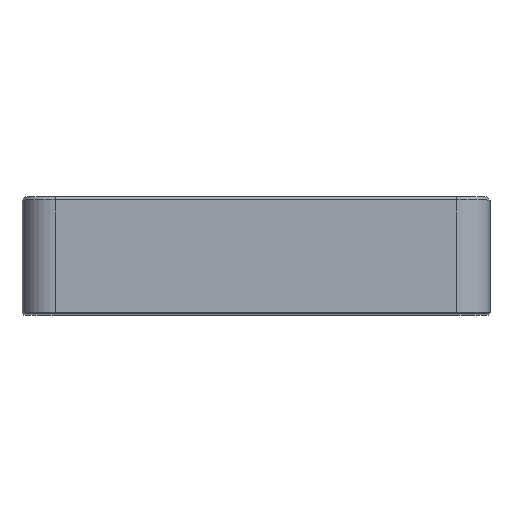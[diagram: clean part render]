
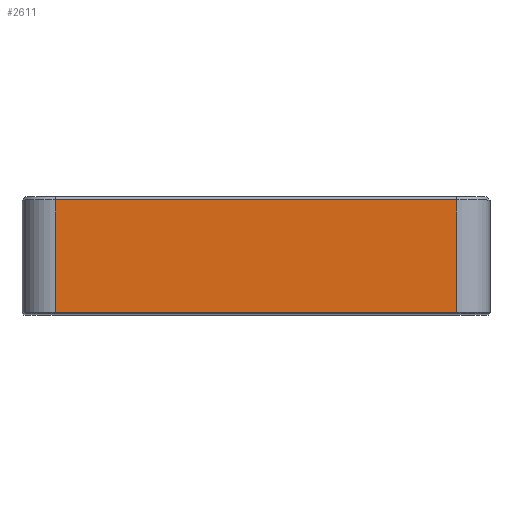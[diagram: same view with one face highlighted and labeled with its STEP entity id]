
A CAD part, top view. The second image highlights one B-rep face of the part: STEP entity #2611.
In plain terms, the highlighted planar face has unit normal (0, 0, 1).
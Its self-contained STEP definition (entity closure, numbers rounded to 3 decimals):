
#323=FACE_OUTER_BOUND('',#490,.T.);
#490=EDGE_LOOP('',(#2000,#2001,#2002,#2003));
#807=LINE('',#4218,#1045);
#808=LINE('',#4222,#1046);
#809=LINE('',#4224,#1047);
#810=LINE('',#4225,#1048);
#1045=VECTOR('',#3322,10.);
#1046=VECTOR('',#3327,10.);
#1047=VECTOR('',#3328,10.);
#1048=VECTOR('',#3329,10.);
#1307=VERTEX_POINT('',#4215);
#1308=VERTEX_POINT('',#4217);
#1309=VERTEX_POINT('',#4221);
#1310=VERTEX_POINT('',#4223);
#1565=EDGE_CURVE('',#1307,#1308,#807,.T.);
#1567=EDGE_CURVE('',#1309,#1307,#808,.T.);
#1568=EDGE_CURVE('',#1309,#1310,#809,.T.);
#1569=EDGE_CURVE('',#1308,#1310,#810,.T.);
#2000=ORIENTED_EDGE('',*,*,#1567,.F.);
#2001=ORIENTED_EDGE('',*,*,#1568,.T.);
#2002=ORIENTED_EDGE('',*,*,#1569,.F.);
#2003=ORIENTED_EDGE('',*,*,#1565,.F.);
#2496=PLANE('',#2849);
#2611=ADVANCED_FACE('',(#323),#2496,.T.);
#2849=AXIS2_PLACEMENT_3D('',#4220,#3325,#3326);
#3322=DIRECTION('',(0.,1.,0.));
#3325=DIRECTION('center_axis',(0.,0.,
1.));
#3326=DIRECTION('ref_axis',(1.,0.,0.));
#3327=DIRECTION('',(-1.,0.,0.));
#3328=DIRECTION('',(0.,1.,0.));
#3329=DIRECTION('',(1.,0.,0.));
#4215=CARTESIAN_POINT('',(-51.158,-4.372,56.652));
#4217=CARTESIAN_POINT('',(-51.158,12.428,56.652));
#4218=CARTESIAN_POINT('',(-51.158,-4.572,56.652));
#4220=CARTESIAN_POINT('Origin',(-51.158,-4.572,56.652));
#4221=CARTESIAN_POINT('',(8.842,-4.372,56.652));
#4222=CARTESIAN_POINT('',(-36.158,-4.372,56.652));
#4223=CARTESIAN_POINT('',(8.842,12.428,56.652));
#4224=CARTESIAN_POINT('',(8.842,-4.572,56.652));
#4225=CARTESIAN_POINT('',(-36.158,12.428,56.652));
